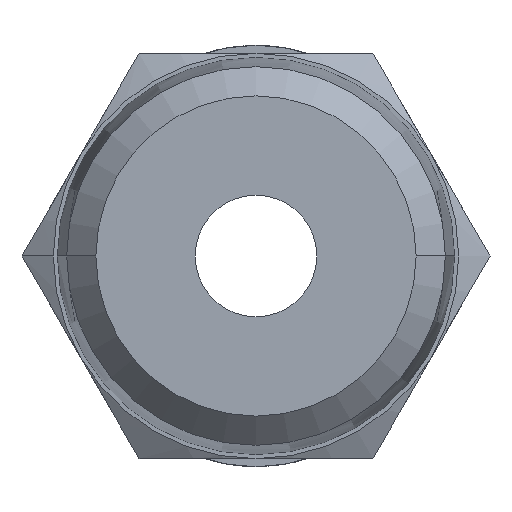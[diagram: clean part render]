
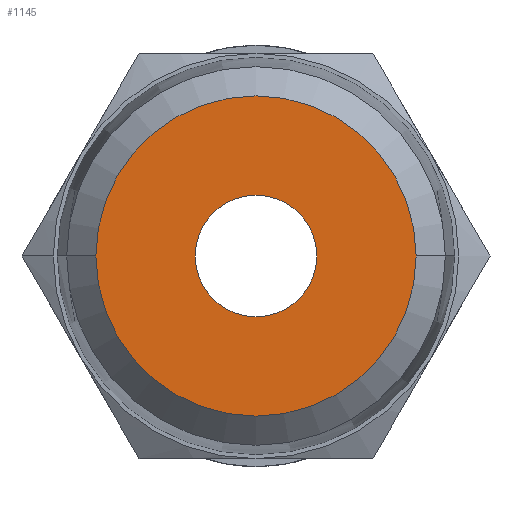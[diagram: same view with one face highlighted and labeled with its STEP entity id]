
A CAD part, front view. The second image highlights one B-rep face of the part: STEP entity #1145.
In plain terms, the highlighted planar face has unit normal (0, -1, 0).
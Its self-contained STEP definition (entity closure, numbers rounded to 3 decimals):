
#17 = ORIENTED_EDGE ( 'NONE', *, *, #895, .F. ) ;
#37 = PLANE ( 'NONE',  #635 ) ;
#55 = DIRECTION ( 'NONE',  ( 0., 1., 0. ) ) ;
#76 = CIRCLE ( 'NONE', #1455, 3.95 ) ;
#136 = DIRECTION ( 'NONE',  ( 0., 1., 0. ) ) ;
#183 = FACE_BOUND ( 'NONE', #725, .T. ) ;
#226 = CIRCLE ( 'NONE', #696, 3.95 ) ;
#319 = CARTESIAN_POINT ( 'NONE',  ( 0., 0., 0. ) ) ;
#382 = EDGE_CURVE ( 'NONE', #1619, #733, #1282, .T. ) ;
#385 = CARTESIAN_POINT ( 'NONE',  ( 0., 0., 0. ) ) ;
#405 = CARTESIAN_POINT ( 'NONE',  ( -1.5, 0., 0. ) ) ;
#462 = AXIS2_PLACEMENT_3D ( 'NONE', #505, #1761, #1611 ) ;
#481 = EDGE_LOOP ( 'NONE', ( #17, #617 ) ) ;
#482 = VERTEX_POINT ( 'NONE', #1433 ) ;
#505 = CARTESIAN_POINT ( 'NONE',  ( 0., 0., 0. ) ) ;
#600 = DIRECTION ( 'NONE',  ( 0., 0., -1. ) ) ;
#617 = ORIENTED_EDGE ( 'NONE', *, *, #1180, .F. ) ;
#626 = CARTESIAN_POINT ( 'NONE',  ( -1.975, 0., 0. ) ) ;
#635 = AXIS2_PLACEMENT_3D ( 'NONE', #626, #909, #600 ) ;
#696 = AXIS2_PLACEMENT_3D ( 'NONE', #748, #55, #1158 ) ;
#697 = DIRECTION ( 'NONE',  ( -1., 0., 0. ) ) ;
#725 = EDGE_LOOP ( 'NONE', ( #1208, #1497 ) ) ;
#733 = VERTEX_POINT ( 'NONE', #1771 ) ;
#748 = CARTESIAN_POINT ( 'NONE',  ( 0., 0., 0. ) ) ;
#810 = DIRECTION ( 'NONE',  ( -1., 0., 0. ) ) ;
#895 = EDGE_CURVE ( 'NONE', #482, #1803, #76, .T. ) ;
#909 = DIRECTION ( 'NONE',  ( 0., -1., 0. ) ) ;
#945 = DIRECTION ( 'NONE',  ( 0., 1., 0. ) ) ;
#951 = EDGE_CURVE ( 'NONE', #733, #1619, #1687, .T. ) ;
#1145 = ADVANCED_FACE ( 'NONE', ( #1444, #183 ), #37, .T. ) ;
#1158 = DIRECTION ( 'NONE',  ( -1., 0., 0. ) ) ;
#1180 = EDGE_CURVE ( 'NONE', #1803, #482, #226, .T. ) ;
#1208 = ORIENTED_EDGE ( 'NONE', *, *, #382, .T. ) ;
#1282 = CIRCLE ( 'NONE', #1369, 1.5 ) ;
#1308 = CARTESIAN_POINT ( 'NONE',  ( 3.95, 0., 0. ) ) ;
#1369 = AXIS2_PLACEMENT_3D ( 'NONE', #385, #945, #810 ) ;
#1433 = CARTESIAN_POINT ( 'NONE',  ( -3.95, 0., 0. ) ) ;
#1444 = FACE_OUTER_BOUND ( 'NONE', #481, .T. ) ;
#1455 = AXIS2_PLACEMENT_3D ( 'NONE', #319, #136, #697 ) ;
#1497 = ORIENTED_EDGE ( 'NONE', *, *, #951, .T. ) ;
#1611 = DIRECTION ( 'NONE',  ( -1., 0., 0. ) ) ;
#1619 = VERTEX_POINT ( 'NONE', #405 ) ;
#1687 = CIRCLE ( 'NONE', #462, 1.5 ) ;
#1761 = DIRECTION ( 'NONE',  ( 0., 1., 0. ) ) ;
#1771 = CARTESIAN_POINT ( 'NONE',  ( 1.5, 0., 0. ) ) ;
#1803 = VERTEX_POINT ( 'NONE', #1308 ) ;
